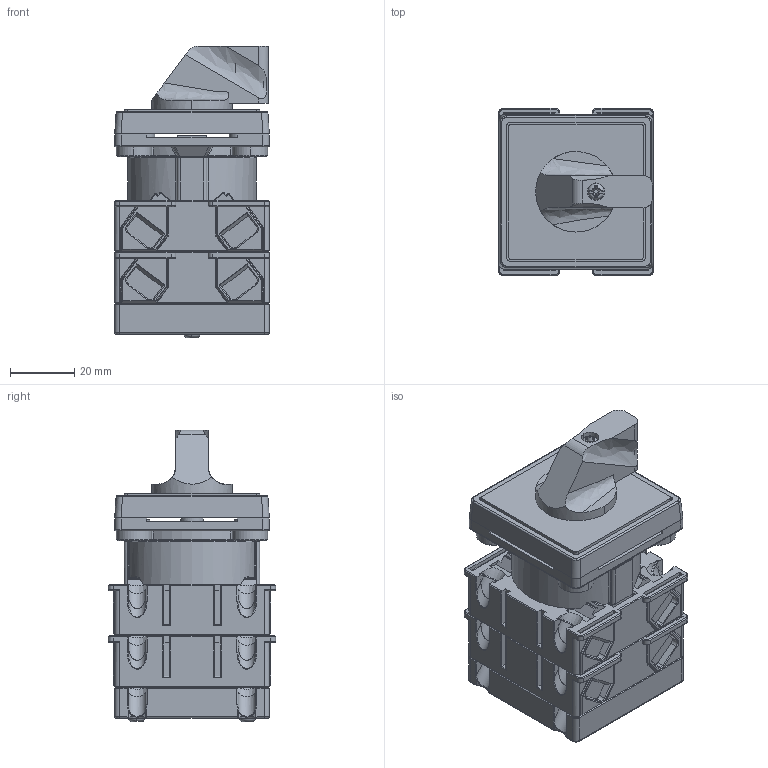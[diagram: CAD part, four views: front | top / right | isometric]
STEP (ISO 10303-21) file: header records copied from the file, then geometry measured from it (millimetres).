
FILE_DESCRIPTION (( 'STEP AP214' ), '1' );
FILE_NAME ('Ïåðåêëþ÷àòåëü 4G16, 25-XXXX-U-R114 ÃÆÈÊ.642212 2ê.STEP', '2024-07-31T08:10:50', ( '' ), ( '' ), 'SwSTEP 2.0', 'SolidWorks 2018', '' );
FILE_SCHEMA (( 'AUTOMOTIVE_DESIGN' ));
Length unit declared in the file: millimetre
Products named in the file (1): Ïåðåêëþ÷àòåëü 4G16, 25-XXXX-U-R114 ÃÆÈÊ.642212 2ê
Bounding box: 48 x 52 x 90.6 mm (x, y, z)
Volume: 120231.1 mm3; surface area: 66532.2 mm2
Topology: 16 solids, 32 shells, 3626 faces, 9565 edges, 6026 vertices
Faces by surface type: plane 1981, cylinder 1167, torus 186, cone 143, bspline 85, sphere 64
Entity records: 178916 total; most frequent: CARTESIAN_POINT 50885, ORIENTED_EDGE 19012, DIRECTION 17781, EDGE_CURVE 9506, LINE 6219, VECTOR 6219, VERTEX_POINT 6014, AXIS2_PLACEMENT_3D 5781
